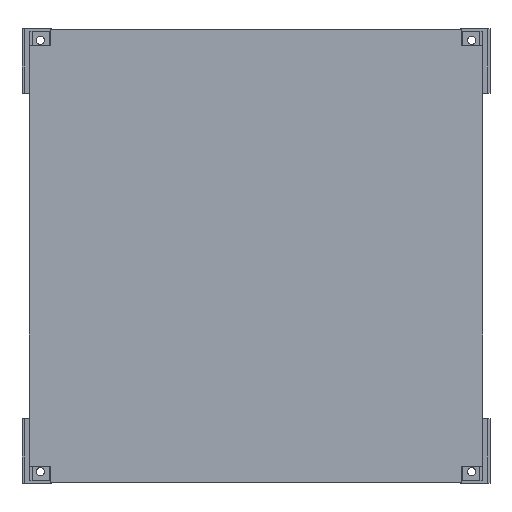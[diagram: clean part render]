
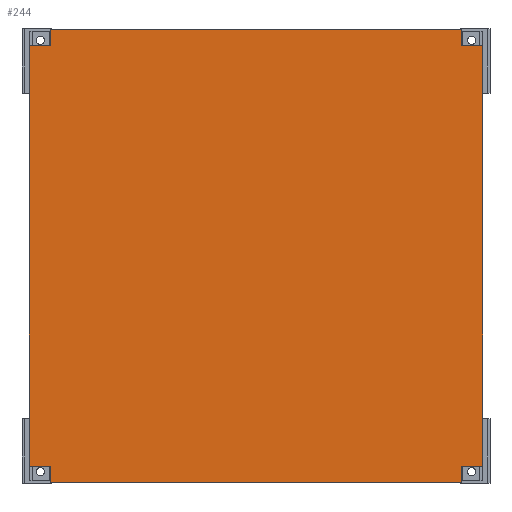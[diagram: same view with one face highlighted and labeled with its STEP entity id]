
A CAD part, top view. The second image highlights one B-rep face of the part: STEP entity #244.
In plain terms, the highlighted planar face has unit normal (0, 0, 1) as drawn and (0, 0, -1) by its records, which use the part's own axes.
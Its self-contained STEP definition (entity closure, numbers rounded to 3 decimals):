
#244 = ADVANCED_FACE( '', ( #510 ), #511, .F. );
#510 = FACE_OUTER_BOUND( '', #814, .T. );
#511 = PLANE( '', #815 );
#814 = EDGE_LOOP( '', ( #1297, #1298, #1299, #1300, #1301, #1302, #1303, #1304, #1305, #1306, #1307, #1308 ) );
#815 = AXIS2_PLACEMENT_3D( '', #1309, #1310, #1311 );
#1297 = ORIENTED_EDGE( '', *, *, #1767, .F. );
#1298 = ORIENTED_EDGE( '', *, *, #1926, .F. );
#1299 = ORIENTED_EDGE( '', *, *, #1944, .F. );
#1300 = ORIENTED_EDGE( '', *, *, #1945, .T. );
#1301 = ORIENTED_EDGE( '', *, *, #1876, .F. );
#1302 = ORIENTED_EDGE( '', *, *, #1946, .F. );
#1303 = ORIENTED_EDGE( '', *, *, #1947, .T. );
#1304 = ORIENTED_EDGE( '', *, *, #1948, .T. );
#1305 = ORIENTED_EDGE( '', *, *, #1939, .T. );
#1306 = ORIENTED_EDGE( '', *, *, #1949, .F. );
#1307 = ORIENTED_EDGE( '', *, *, #1950, .T. );
#1308 = ORIENTED_EDGE( '', *, *, #1951, .T. );
#1309 = CARTESIAN_POINT( '', ( 224., 0., 0. ) );
#1310 = DIRECTION( '', ( 0., 0., 1. ) );
#1311 = DIRECTION( '', ( 1., 0., 0. ) );
#1767 = EDGE_CURVE( '', #2076, #2077, #2078, .T. );
#1876 = EDGE_CURVE( '', #2264, #2262, #2266, .T. );
#1926 = EDGE_CURVE( '', #2343, #2076, #2345, .T. );
#1939 = EDGE_CURVE( '', #2356, #2365, #2367, .T. );
#1944 = EDGE_CURVE( '', #2374, #2343, #2375, .T. );
#1945 = EDGE_CURVE( '', #2374, #2262, #2376, .T. );
#1946 = EDGE_CURVE( '', #2377, #2264, #2378, .T. );
#1947 = EDGE_CURVE( '', #2377, #2379, #2380, .T. );
#1948 = EDGE_CURVE( '', #2379, #2356, #2381, .T. );
#1949 = EDGE_CURVE( '', #2382, #2365, #2383, .T. );
#1950 = EDGE_CURVE( '', #2382, #2384, #2385, .T. );
#1951 = EDGE_CURVE( '', #2384, #2077, #2386, .T. );
#2076 = VERTEX_POINT( '', #2539 );
#2077 = VERTEX_POINT( '', #2540 );
#2078 = LINE( '', #2541, #2542 );
#2262 = VERTEX_POINT( '', #2802 );
#2264 = VERTEX_POINT( '', #2805 );
#2266 = LINE( '', #2808, #2809 );
#2343 = VERTEX_POINT( '', #2923 );
#2345 = LINE( '', #2926, #2927 );
#2356 = VERTEX_POINT( '', #2943 );
#2365 = VERTEX_POINT( '', #2956 );
#2367 = LINE( '', #2959, #2960 );
#2374 = VERTEX_POINT( '', #2967 );
#2375 = LINE( '', #2968, #2969 );
#2376 = LINE( '', #2970, #2971 );
#2377 = VERTEX_POINT( '', #2972 );
#2378 = LINE( '', #2973, #2974 );
#2379 = VERTEX_POINT( '', #2975 );
#2380 = LINE( '', #2976, #2977 );
#2381 = LINE( '', #2978, #2979 );
#2382 = VERTEX_POINT( '', #2980 );
#2383 = LINE( '', #2981, #2982 );
#2384 = VERTEX_POINT( '', #2983 );
#2385 = LINE( '', #2984, #2985 );
#2386 = LINE( '', #2986, #2987 );
#2539 = CARTESIAN_POINT( '', ( -247., 18.08, 0. ) );
#2540 = CARTESIAN_POINT( '', ( -224., 18.08, 0. ) );
#2541 = CARTESIAN_POINT( '', ( 224., 18.08, 0. ) );
#2542 = VECTOR( '', #3204, 1000. );
#2802 = CARTESIAN_POINT( '', ( -224., 494., 0. ) );
#2805 = CARTESIAN_POINT( '', ( 224., 494., 0. ) );
#2808 = CARTESIAN_POINT( '', ( 224., 494., 0. ) );
#2809 = VECTOR( '', #3313, 1000. );
#2923 = CARTESIAN_POINT( '', ( -247., 475.92, 0. ) );
#2926 = CARTESIAN_POINT( '', ( -247., 492., 0. ) );
#2927 = VECTOR( '', #3358, 1000. );
#2943 = CARTESIAN_POINT( '', ( 247., 18.08, 0. ) );
#2956 = CARTESIAN_POINT( '', ( 224., 18.08, 0. ) );
#2959 = CARTESIAN_POINT( '', ( 224., 18.08, 0. ) );
#2960 = VECTOR( '', #3369, 1000. );
#2967 = CARTESIAN_POINT( '', ( -224., 475.92, 0. ) );
#2968 = CARTESIAN_POINT( '', ( 224., 475.92, 0. ) );
#2969 = VECTOR( '', #3376, 1000. );
#2970 = CARTESIAN_POINT( '', ( -224., 0., 0. ) );
#2971 = VECTOR( '', #3377, 1000. );
#2972 = CARTESIAN_POINT( '', ( 224., 475.92, 0. ) );
#2973 = CARTESIAN_POINT( '', ( 224., 0., 0. ) );
#2974 = VECTOR( '', #3378, 1000. );
#2975 = CARTESIAN_POINT( '', ( 247., 475.92, 0. ) );
#2976 = CARTESIAN_POINT( '', ( 224., 475.92, 0. ) );
#2977 = VECTOR( '', #3379, 1000. );
#2978 = CARTESIAN_POINT( '', ( 247., 492., 0. ) );
#2979 = VECTOR( '', #3380, 1000. );
#2980 = CARTESIAN_POINT( '', ( 224., 0., 0. ) );
#2981 = CARTESIAN_POINT( '', ( 224., 0., 0. ) );
#2982 = VECTOR( '', #3381, 1000. );
#2983 = CARTESIAN_POINT( '', ( -224., 0., 0. ) );
#2984 = CARTESIAN_POINT( '', ( 224., 0., 0. ) );
#2985 = VECTOR( '', #3382, 1000. );
#2986 = CARTESIAN_POINT( '', ( -224., 0., 0. ) );
#2987 = VECTOR( '', #3383, 1000. );
#3204 = DIRECTION( '', ( 1., 0., 0. ) );
#3313 = DIRECTION( '', ( -1., 0., 0. ) );
#3358 = DIRECTION( '', ( 0., -1., 0. ) );
#3369 = DIRECTION( '', ( -1., 0., 0. ) );
#3376 = DIRECTION( '', ( -1., 0., 0. ) );
#3377 = DIRECTION( '', ( 0., 1., 0. ) );
#3378 = DIRECTION( '', ( 0., 1., 0. ) );
#3379 = DIRECTION( '', ( 1., 0., 0. ) );
#3380 = DIRECTION( '', ( 0., -1., 0. ) );
#3381 = DIRECTION( '', ( 0., 1., 0. ) );
#3382 = DIRECTION( '', ( -1., 0., 0. ) );
#3383 = DIRECTION( '', ( 0., 1., 0. ) );
